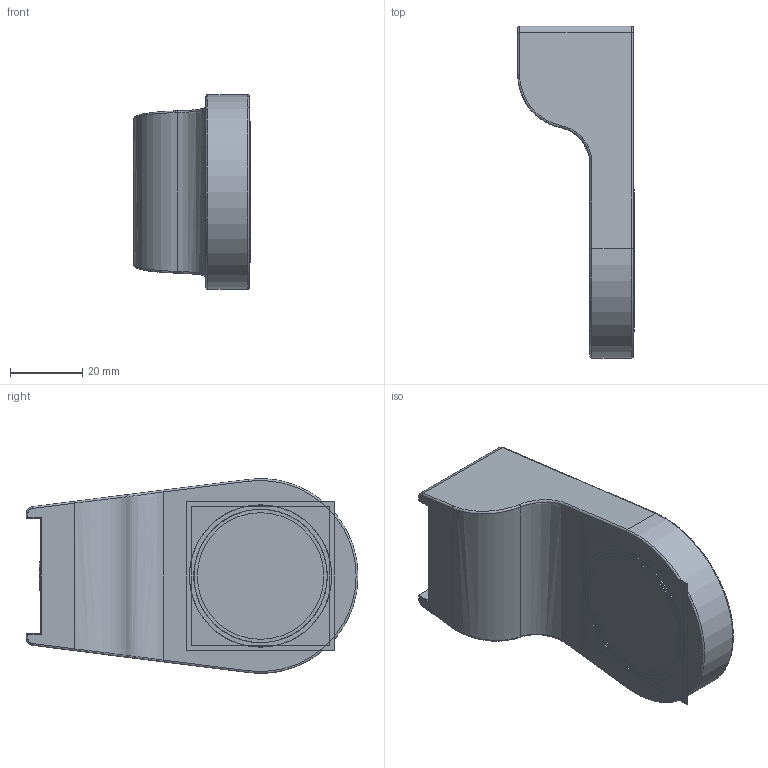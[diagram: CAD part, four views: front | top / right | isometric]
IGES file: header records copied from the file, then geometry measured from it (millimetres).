
Start section:  PTC IGES file: 6158121360.igs
Global section: file name: 6158121360.igs; native system: Creo Parametric by PTC Inc.; preprocessor: 2017170; author: GREEXTADU; organization: Unknown; date: 20180702.151127; units: millimetre
Bounding box: 32.24 x 92 x 53.95 mm (x, y, z)
Volume: 55595.7 mm3; surface area: 29011.8 mm2
Topology: 1 solids, 4 shells, 73 faces, 231 edges, 217 vertices
Faces by surface type: revolution 45, bspline 28
